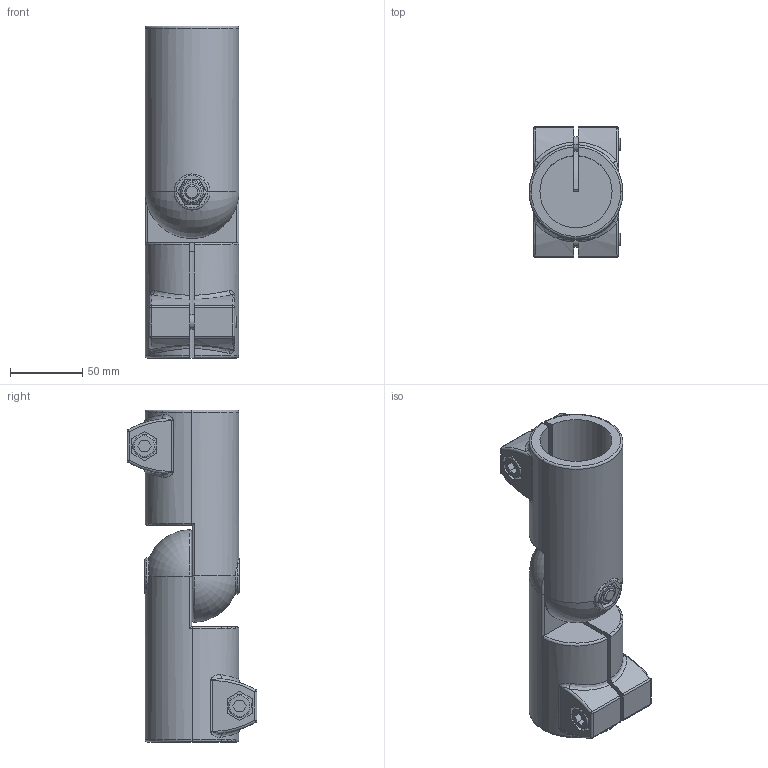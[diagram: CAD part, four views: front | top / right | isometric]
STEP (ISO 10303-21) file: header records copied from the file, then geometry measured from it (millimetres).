
FILE_DESCRIPTION (( 'STEP AP214' ), '1' );
FILE_NAME ('286-B50-B50-T-2-BL.step', '2021-12-02T12:14:10', ( '' ), ( '' ), 'SwSTEP 2.0', 'SolidWorks 2019', '' );
FILE_SCHEMA (( 'AUTOMOTIVE_DESIGN' ));
Length unit declared in the file: millimetre
Products named in the file (3): WB276^WB286_B50-IV-2-BL; 286-B50-B50-T-2-BL; WB276_1^WB286_B50-AV-2-BL
Assembly tree (2 placements, depth 2):
  286-B50-B50-T-2-BL
    WB276^WB286_B50-IV-2-BL
    WB276_1^WB286_B50-AV-2-BL
Bounding box: 65 x 90 x 230 mm (x, y, z)
Volume: 469860 mm3; surface area: 112247.6 mm2
Topology: 2 solids, 2 shells, 496 faces, 1256 edges, 782 vertices
Faces by surface type: plane 290, cylinder 108, torus 46, cone 24, bspline 20, sphere 8
Entity records: 19024 total; most frequent: CARTESIAN_POINT 6337, ORIENTED_EDGE 2496, DIRECTION 2358, EDGE_CURVE 1248, AXIS2_PLACEMENT_3D 929, VERTEX_POINT 782, EDGE_LOOP 528, VECTOR 500
